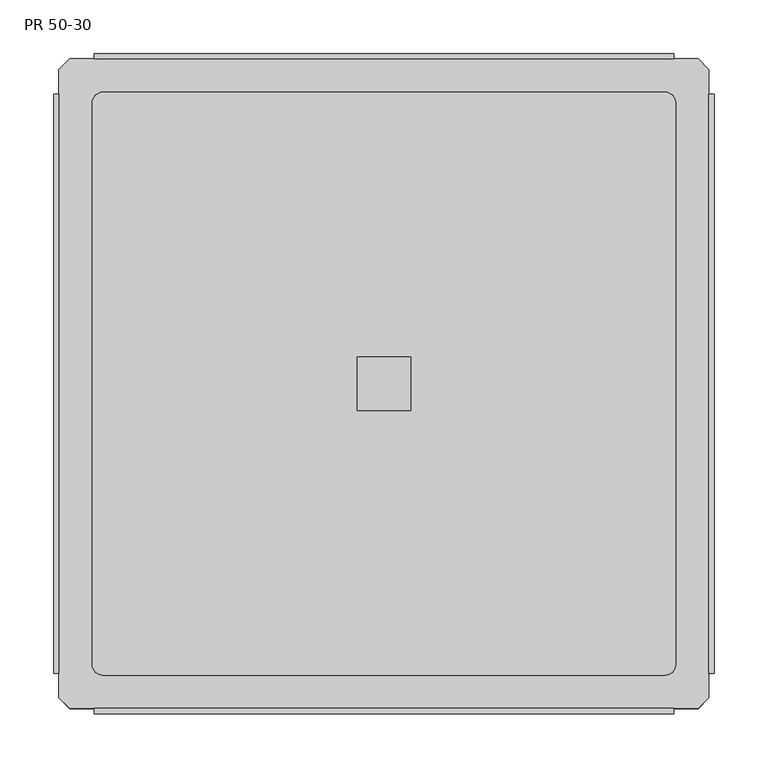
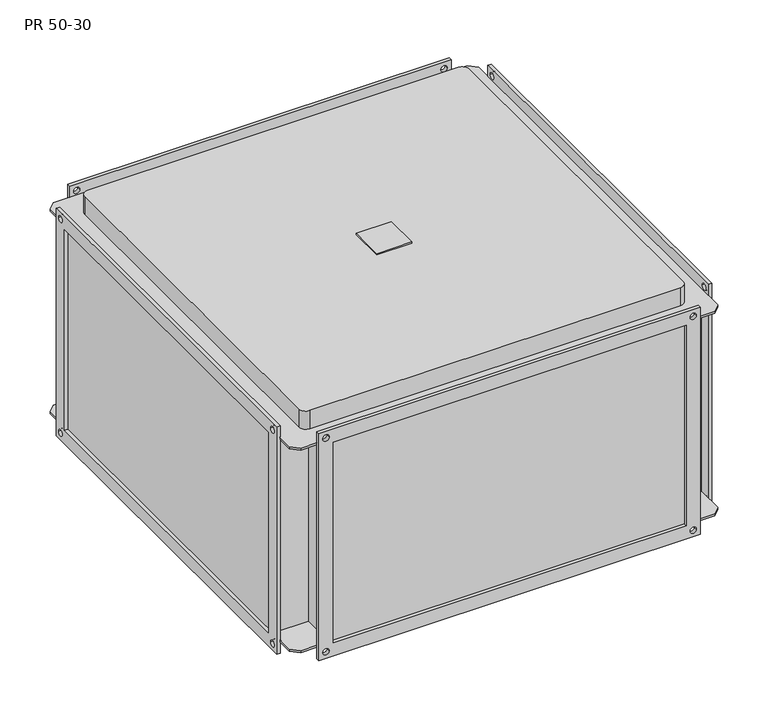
"""IFC4 building model written with IfcOpenShell, lengths in millimetres: proxy geometry, KORF_Рекуператор_Пластинчатый_PR : PR 50-30."""

from ifc_helpers import new_model, si_unit, point, frame, frame_2d, origin, place, context, project, spatial, polyline, circle_curve, trimmed, segment, composite_curve, outline, extrude, source, transform, mapped, element, save
from ifc_brep_helpers import plane_surface, cylinder_surface, revolved_surface, advanced_brep


def pr_50_30_9a198d9c(model_context):
    return source(origin(), model_context, "Body", "SolidModel", [
        extrude(outline(polyline([(283.0, -25.0), (283.0, 25.0), (333.0, 25.0), (333.0, -25.0), (283.0, -25.0)])), frame((0.0, 0.0, 180.0), z_axis=(0.0, 0.0, 1.0), x_axis=(1.0, 0.0, 0.0)), (0.0, 0.0, 1.0), 2.0),
        advanced_brep(
        [(558.0, -303.0, -150.0), (558.0, -303.0, 150.0), (58.0, -303.0, 150.0), (58.0, -303.0, -150.0), (558.0, 303.0, 150.0), (558.0, 303.0, -150.0), (58.0, 303.0, -150.0), (58.0, 303.0, 150.0), (15.0, 303.0, 153.0), (5.0, 293.0, 153.0), (5.0, -293.0, 153.0), (15.0, -303.0, 153.0), (38.0, -303.0, 153.0), (578.0, -303.0, 153.0), (601.0, -303.0, 153.0), (611.0, -293.0, 153.0), (611.0, 293.0, 153.0), (601.0, 303.0, 153.0), (578.0, 303.0, 153.0), (38.0, 303.0, 153.0), (46.0, 272.0, 153.0), (570.0, 272.0, 153.0), (580.0, 262.0, 153.0), (580.0, -262.0, 153.0), (570.0, -272.0, 153.0), (46.0, -272.0, 153.0), (36.0, -262.0, 153.0), (36.0, 262.0, 153.0), (55.0, -303.0, 150.0), (55.0, -253.0, 150.0), (55.0, -253.0, -150.0), (55.0, -303.0, -150.0), (55.0, 253.0, 150.0), (55.0, 303.0, 150.0), (55.0, 303.0, -150.0), (55.0, 253.0, -150.0), (5.0, 293.0, -153.0), (15.0, 303.0, -153.0), (38.0, 303.0, -153.0), (578.0, 303.0, -153.0), (601.0, 303.0, -153.0), (611.0, 293.0, -153.0), (611.0, -293.0, -153.0), (601.0, -303.0, -153.0), (578.0, -303.0, -153.0), (38.0, -303.0, -153.0), (15.0, -303.0, -153.0), (5.0, -293.0, -153.0), (561.0, -253.0, 150.0), (561.0, -303.0, 150.0), (561.0, -303.0, -150.0), (561.0, -253.0, -150.0), (561.0, 303.0, 150.0), (561.0, 253.0, 150.0), (561.0, 253.0, -150.0), (561.0, 303.0, -150.0), (611.0, 253.0, 150.0), (611.0, 293.0, 150.0), (611.0, -293.0, 150.0), (611.0, -253.0, 150.0), (611.0, -253.0, -150.0), (611.0, -293.0, -150.0), (611.0, 293.0, -150.0), (611.0, 253.0, -150.0), (5.0, 293.0, 150.0), (5.0, 253.0, 150.0), (5.0, 253.0, -150.0), (5.0, 293.0, -150.0), (5.0, -293.0, -150.0), (5.0, -253.0, -150.0), (5.0, -253.0, 150.0), (5.0, -293.0, 150.0), (578.0, 308.0, 170.0), (578.0, 308.0, -170.0), (38.0, 308.0, -170.0), (38.0, 308.0, 170.0), (558.0, 308.0, 150.0), (58.0, 308.0, 150.0), (58.0, 308.0, -150.0), (558.0, 308.0, -150.0), (43.5, 308.0, 160.0), (52.5, 308.0, 160.0), (563.5, 308.0, 160.0), (572.5, 308.0, 160.0), (563.5, 308.0, -160.0), (572.5, 308.0, -160.0), (43.5, 308.0, -160.0), (52.5, 308.0, -160.0), (578.0, 303.0, 170.0), (38.0, 303.0, 170.0), (43.5, 303.0, 160.0), (52.5, 303.0, 160.0), (563.5, 303.0, 160.0), (572.5, 303.0, 160.0), (38.0, 303.0, -170.0), (578.0, 303.0, -170.0), (563.5, 303.0, -160.0), (572.5, 303.0, -160.0), (43.5, 303.0, -160.0), (52.5, 303.0, -160.0), (38.0, 303.0, 150.0), (38.0, 303.0, -150.0), (578.0, 303.0, 150.0), (578.0, 303.0, -150.0), (578.0, -308.0, 170.0), (38.0, -308.0, 170.0), (38.0, -308.0, -170.0), (578.0, -308.0, -170.0), (558.0, -308.0, 150.0), (558.0, -308.0, -150.0), (58.0, -308.0, -150.0), (58.0, -308.0, 150.0), (563.5, -308.0, 160.0), (572.5, -308.0, 160.0), (563.5, -308.0, -160.0), (572.5, -308.0, -160.0), (43.5, -308.0, 160.0), (52.5, -308.0, 160.0), (43.5, -308.0, -160.0), (52.5, -308.0, -160.0), (578.0, -303.0, -170.0), (38.0, -303.0, -170.0), (563.5, -303.0, -160.0), (572.5, -303.0, -160.0), (43.5, -303.0, -160.0), (52.5, -303.0, -160.0), (38.0, -303.0, 170.0), (578.0, -303.0, 170.0), (563.5, -303.0, 160.0), (572.5, -303.0, 160.0), (43.5, -303.0, 160.0), (52.5, -303.0, 160.0), (38.0, -303.0, 150.0), (38.0, -303.0, -150.0), (578.0, -303.0, 150.0), (578.0, -303.0, -150.0), (601.0, -303.0, 150.0), (15.0, 303.0, 150.0), (601.0, 303.0, 150.0), (15.0, -303.0, 150.0), (601.0, 303.0, -150.0), (15.0, -303.0, -150.0), (15.0, 303.0, -150.0), (601.0, -303.0, -150.0), (570.0, 272.0, 180.0), (46.0, 272.0, 180.0), (36.0, 262.0, 180.0), (36.0, -262.0, 180.0), (46.0, -272.0, 180.0), (570.0, -272.0, 180.0), (580.0, -262.0, 180.0), (580.0, 262.0, 180.0)],
        [
            (0, 1),
            (1, 2),
            (2, 3),
            (3, 0),
            (4, 5),
            (5, 6),
            (6, 7),
            (7, 4),
            (8, 9),
            (9, 10),
            (10, 11),
            (11, 12),
            (12, 13),
            (13, 14),
            (14, 15),
            (15, 16),
            (16, 17),
            (17, 18),
            (18, 19),
            (19, 8),
            (20, 21),
            (21, 22, circle_curve(frame((570.0, 262.0, 153.0), z_axis=(0.0, 0.0, -1.0), x_axis=(1.0, 0.0, 0.0)), 10.0)),
            (22, 23),
            (23, 24, circle_curve(frame((570.0, -262.0, 153.0), z_axis=(0.0, 0.0, -1.0), x_axis=(1.0, 0.0, 0.0)), 10.0)),
            (24, 25),
            (25, 26, circle_curve(frame((46.0, -262.0, 153.0), z_axis=(0.0, 0.0, -1.0), x_axis=(1.0, 0.0, 0.0)), 10.0)),
            (26, 27),
            (27, 20, circle_curve(frame((46.0, 262.0, 153.0), z_axis=(0.0, 0.0, -1.0), x_axis=(1.0, 0.0, 0.0)), 10.0)),
            (28, 29),
            (29, 30),
            (30, 31),
            (31, 28),
            (32, 33),
            (33, 34),
            (34, 35),
            (35, 32),
            (36, 37),
            (37, 38),
            (38, 39),
            (39, 40),
            (40, 41),
            (41, 42),
            (42, 43),
            (43, 44),
            (44, 45),
            (45, 46),
            (46, 47),
            (47, 36),
            (48, 49),
            (49, 50),
            (50, 51),
            (51, 48),
            (52, 53),
            (53, 54),
            (54, 55),
            (55, 52),
            (56, 57),
            (57, 16),
            (15, 58),
            (58, 59),
            (59, 60),
            (60, 61),
            (61, 42),
            (41, 62),
            (62, 63),
            (63, 56),
            (64, 65),
            (65, 66),
            (66, 67),
            (67, 36),
            (47, 68),
            (68, 69),
            (69, 70),
            (70, 71),
            (71, 10),
            (9, 64),
            (29, 70),
            (69, 30),
            (59, 48),
            (51, 60),
            (65, 32),
            (35, 66),
            (53, 56),
            (63, 54),
            (72, 73),
            (73, 74),
            (74, 75),
            (75, 72),
            (76, 77),
            (77, 78),
            (78, 79),
            (79, 76),
            (80, 81, circle_curve(frame((48.0, 308.0, 160.0), z_axis=(0.0, -1.0, 0.0), x_axis=(1.0, 0.0, 0.0)), 4.5)),
            (81, 80, circle_curve(frame((48.0, 308.0, 160.0), z_axis=(0.0, -1.0, 0.0), x_axis=(1.0, 0.0, 0.0)), 4.5)),
            (82, 83, circle_curve(frame((568.0, 308.0, 160.0), z_axis=(0.0, -1.0, 0.0), x_axis=(1.0, 0.0, 0.0)), 4.5)),
            (83, 82, circle_curve(frame((568.0, 308.0, 160.0), z_axis=(0.0, -1.0, 0.0), x_axis=(1.0, 0.0, 0.0)), 4.5)),
            (84, 85, circle_curve(frame((568.0, 308.0, -160.0), z_axis=(0.0, -1.0, 0.0), x_axis=(1.0, 0.0, 0.0)), 4.5)),
            (85, 84, circle_curve(frame((568.0, 308.0, -160.0), z_axis=(0.0, -1.0, 0.0), x_axis=(1.0, 0.0, 0.0)), 4.5)),
            (86, 87, circle_curve(frame((48.0, 308.0, -160.0), z_axis=(0.0, -1.0, 0.0), x_axis=(1.0, 0.0, 0.0)), 4.5)),
            (87, 86, circle_curve(frame((48.0, 308.0, -160.0), z_axis=(0.0, -1.0, 0.0), x_axis=(1.0, 0.0, 0.0)), 4.5)),
            (88, 89),
            (89, 19),
            (18, 88),
            (90, 91, circle_curve(frame((48.0, 303.0, 160.0), z_axis=(0.0, 1.0, 0.0), x_axis=(1.0, 0.0, 0.0)), 4.5)),
            (91, 90, circle_curve(frame((48.0, 303.0, 160.0), z_axis=(0.0, 1.0, 0.0), x_axis=(1.0, 0.0, 0.0)), 4.5)),
            (92, 93, circle_curve(frame((568.0, 303.0, 160.0), z_axis=(0.0, 1.0, 0.0), x_axis=(1.0, 0.0, 0.0)), 4.5)),
            (93, 92, circle_curve(frame((568.0, 303.0, 160.0), z_axis=(0.0, 1.0, 0.0), x_axis=(1.0, 0.0, 0.0)), 4.5)),
            (94, 95),
            (95, 39),
            (38, 94),
            (96, 97, circle_curve(frame((568.0, 303.0, -160.0), z_axis=(0.0, 1.0, 0.0), x_axis=(1.0, 0.0, 0.0)), 4.5)),
            (97, 96, circle_curve(frame((568.0, 303.0, -160.0), z_axis=(0.0, 1.0, 0.0), x_axis=(1.0, 0.0, 0.0)), 4.5)),
            (98, 99, circle_curve(frame((48.0, 303.0, -160.0), z_axis=(0.0, 1.0, 0.0), x_axis=(1.0, 0.0, 0.0)), 4.5)),
            (99, 98, circle_curve(frame((48.0, 303.0, -160.0), z_axis=(0.0, 1.0, 0.0), x_axis=(1.0, 0.0, 0.0)), 4.5)),
            (33, 100),
            (100, 101),
            (101, 34),
            (102, 52),
            (55, 103),
            (103, 102),
            (75, 89),
            (88, 72),
            (74, 94),
            (38, 101),
            (100, 19),
            (73, 95),
            (18, 102),
            (103, 39),
            (79, 5),
            (4, 76),
            (78, 6),
            (77, 7),
            (104, 105),
            (105, 106),
            (106, 107),
            (107, 104),
            (108, 109),
            (109, 110),
            (110, 111),
            (111, 108),
            (112, 113, circle_curve(frame((568.0, -308.0, 160.0), z_axis=(0.0, 1.0, 0.0), x_axis=(1.0, 0.0, 0.0)), 4.5)),
            (113, 112, circle_curve(frame((568.0, -308.0, 160.0), z_axis=(0.0, 1.0, 0.0), x_axis=(1.0, 0.0, 0.0)), 4.5)),
            (114, 115, circle_curve(frame((568.0, -308.0, -160.0), z_axis=(0.0, 1.0, 0.0), x_axis=(1.0, 0.0, 0.0)), 4.5)),
            (115, 114, circle_curve(frame((568.0, -308.0, -160.0), z_axis=(0.0, 1.0, 0.0), x_axis=(1.0, 0.0, 0.0)), 4.5)),
            (116, 117, circle_curve(frame((48.0, -308.0, 160.0), z_axis=(0.0, 1.0, 0.0), x_axis=(1.0, 0.0, 0.0)), 4.5)),
            (117, 116, circle_curve(frame((48.0, -308.0, 160.0), z_axis=(0.0, 1.0, 0.0), x_axis=(1.0, 0.0, 0.0)), 4.5)),
            (118, 119, circle_curve(frame((48.0, -308.0, -160.0), z_axis=(0.0, 1.0, 0.0), x_axis=(1.0, 0.0, 0.0)), 4.5)),
            (119, 118, circle_curve(frame((48.0, -308.0, -160.0), z_axis=(0.0, 1.0, 0.0), x_axis=(1.0, 0.0, 0.0)), 4.5)),
            (120, 121),
            (121, 45),
            (44, 120),
            (122, 123, circle_curve(frame((568.0, -303.0, -160.0), z_axis=(0.0, -1.0, 0.0), x_axis=(1.0, 0.0, 0.0)), 4.5)),
            (123, 122, circle_curve(frame((568.0, -303.0, -160.0), z_axis=(0.0, -1.0, 0.0), x_axis=(1.0, 0.0, 0.0)), 4.5)),
            (124, 125, circle_curve(frame((48.0, -303.0, -160.0), z_axis=(0.0, -1.0, 0.0), x_axis=(1.0, 0.0, 0.0)), 4.5)),
            (125, 124, circle_curve(frame((48.0, -303.0, -160.0), z_axis=(0.0, -1.0, 0.0), x_axis=(1.0, 0.0, 0.0)), 4.5)),
            (126, 127),
            (127, 13),
            (12, 126),
            (128, 129, circle_curve(frame((568.0, -303.0, 160.0), z_axis=(0.0, -1.0, 0.0), x_axis=(1.0, 0.0, 0.0)), 4.5)),
            (129, 128, circle_curve(frame((568.0, -303.0, 160.0), z_axis=(0.0, -1.0, 0.0), x_axis=(1.0, 0.0, 0.0)), 4.5)),
            (130, 131, circle_curve(frame((48.0, -303.0, 160.0), z_axis=(0.0, -1.0, 0.0), x_axis=(1.0, 0.0, 0.0)), 4.5)),
            (131, 130, circle_curve(frame((48.0, -303.0, 160.0), z_axis=(0.0, -1.0, 0.0), x_axis=(1.0, 0.0, 0.0)), 4.5)),
            (132, 28),
            (31, 133),
            (133, 132),
            (49, 134),
            (134, 135),
            (135, 50),
            (104, 127),
            (126, 105),
            (12, 132),
            (133, 45),
            (121, 106),
            (120, 107),
            (44, 135),
            (134, 13),
            (108, 1),
            (0, 109),
            (3, 110),
            (2, 111),
            (81, 91),
            (90, 80),
            (83, 93),
            (92, 82),
            (85, 97),
            (96, 84),
            (87, 99),
            (98, 86),
            (112, 128),
            (129, 113),
            (114, 122),
            (123, 115),
            (116, 130),
            (131, 117),
            (118, 124),
            (125, 119),
            (58, 136),
            (136, 134),
            (64, 137),
            (137, 100),
            (138, 57),
            (102, 138),
            (139, 71),
            (132, 139),
            (137, 8),
            (138, 17),
            (139, 11),
            (136, 14),
            (62, 140),
            (140, 103),
            (68, 141),
            (141, 133),
            (142, 67),
            (101, 142),
            (143, 61),
            (135, 143),
            (37, 142),
            (40, 140),
            (46, 141),
            (43, 143),
            (144, 145),
            (145, 146, circle_curve(frame((46.0, 262.0, 180.0), z_axis=(0.0, 0.0, 1.0), x_axis=(1.0, 0.0, 0.0)), 10.0)),
            (146, 147),
            (147, 148, circle_curve(frame((46.0, -262.0, 180.0), z_axis=(0.0, 0.0, 1.0), x_axis=(1.0, 0.0, 0.0)), 10.0)),
            (148, 149),
            (149, 150, circle_curve(frame((570.0, -262.0, 180.0), z_axis=(0.0, 0.0, 1.0), x_axis=(1.0, 0.0, 0.0)), 10.0)),
            (150, 151),
            (151, 144, circle_curve(frame((570.0, 262.0, 180.0), z_axis=(0.0, 0.0, 1.0), x_axis=(1.0, 0.0, 0.0)), 10.0)),
            (144, 21),
            (20, 145),
            (27, 146),
            (26, 147),
            (25, 148),
            (24, 149),
            (23, 150),
            (22, 151),
        ],
        [
            plane_surface(frame((55.0, -303.0, 153.0), z_axis=(0.0, -1.0, 0.0), x_axis=(-1.0, 0.0, 0.0))),
            plane_surface(frame((55.0, 303.0, 153.0), z_axis=(0.0, 1.0, 0.0), x_axis=(1.0, 0.0, 0.0))),
            plane_surface(frame((561.0, -303.0, 153.0), z_axis=(0.0, 0.0, 1.0), x_axis=(0.0, 1.0, 0.0))),
            plane_surface(frame((55.0, -303.0, 153.0), z_axis=(-1.0, 0.0, 0.0), x_axis=(0.0, 1.0, 0.0))),
            plane_surface(frame((55.0, -303.0, -153.0), z_axis=(0.0, 0.0, -1.0), x_axis=(0.0, 1.0, 0.0))),
            plane_surface(frame((561.0, -303.0, -153.0), z_axis=(1.0, 0.0, 0.0), x_axis=(0.0, 1.0, 0.0))),
            plane_surface(frame((611.0, -253.0, 153.0), z_axis=(1.0, 0.0, 0.0), x_axis=(0.0, 0.0, -1.0))),
            plane_surface(frame((5.0, -253.0, 153.0), z_axis=(-1.0, 0.0, 0.0), x_axis=(0.0, 0.0, 1.0))),
            plane_surface(frame((611.0, -253.0, 153.0), z_axis=(0.0, -1.0, 0.0), x_axis=(-1.0, 0.0, 0.0))),
            plane_surface(frame((611.0, 253.0, -153.0), z_axis=(0.0, 1.0, 0.0), x_axis=(-1.0, 0.0, 0.0))),
            plane_surface(frame((38.0, 308.0, 170.0), z_axis=(0.0, 1.0, 0.0), x_axis=(1.0, 0.0, 0.0))),
            plane_surface(frame((38.0, 303.0, 170.0), z_axis=(0.0, -1.0, 0.0), x_axis=(-1.0, 0.0, 0.0))),
            plane_surface(frame((578.0, 303.0, 170.0), z_axis=(0.0, 0.0, 1.0), x_axis=(0.0, 1.0, 0.0))),
            plane_surface(frame((38.0, 303.0, 170.0), z_axis=(-1.0, 0.0, 0.0), x_axis=(0.0, 1.0, 0.0))),
            plane_surface(frame((38.0, 303.0, -170.0), z_axis=(0.0, 0.0, -1.0), x_axis=(0.0, 1.0, 0.0))),
            plane_surface(frame((578.0, 303.0, -170.0), z_axis=(1.0, 0.0, 0.0), x_axis=(0.0, 1.0, 0.0))),
            plane_surface(frame((558.0, 303.0, 150.0), z_axis=(-1.0, 0.0, 0.0), x_axis=(0.0, 1.0, 0.0))),
            plane_surface(frame((558.0, 303.0, -150.0), z_axis=(0.0, 0.0, 1.0), x_axis=(0.0, 1.0, 0.0))),
            plane_surface(frame((58.0, 303.0, -150.0), z_axis=(1.0, 0.0, 0.0), x_axis=(0.0, 1.0, 0.0))),
            plane_surface(frame((58.0, 303.0, 150.0), z_axis=(0.0, 0.0, -1.0), x_axis=(0.0, 1.0, 0.0))),
            plane_surface(frame((38.0, -308.0, 170.0), z_axis=(0.0, -1.0, 0.0), x_axis=(-1.0, 0.0, 0.0))),
            plane_surface(frame((38.0, -303.0, 170.0), z_axis=(0.0, 1.0, 0.0), x_axis=(1.0, 0.0, 0.0))),
            plane_surface(frame((578.0, -308.0, 170.0), z_axis=(0.0, 0.0, 1.0), x_axis=(0.0, 1.0, 0.0))),
            plane_surface(frame((38.0, -308.0, 170.0), z_axis=(-1.0, 0.0, 0.0), x_axis=(0.0, 1.0, 0.0))),
            plane_surface(frame((38.0, -308.0, -170.0), z_axis=(0.0, 0.0, -1.0), x_axis=(0.0, 1.0, 0.0))),
            plane_surface(frame((578.0, -308.0, -170.0), z_axis=(1.0, 0.0, 0.0), x_axis=(0.0, 1.0, 0.0))),
            plane_surface(frame((558.0, -308.0, 150.0), z_axis=(-1.0, 0.0, 0.0), x_axis=(0.0, 1.0, 0.0))),
            plane_surface(frame((558.0, -308.0, -150.0), z_axis=(0.0, 0.0, 1.0), x_axis=(0.0, 1.0, 0.0))),
            plane_surface(frame((58.0, -308.0, -150.0), z_axis=(1.0, 0.0, 0.0), x_axis=(0.0, 1.0, 0.0))),
            plane_surface(frame((58.0, -308.0, 150.0), z_axis=(0.0, 0.0, -1.0), x_axis=(0.0, 1.0, 0.0))),
            revolved_surface(polyline([(52.5, 308.0, 160.0), (52.5, 303.0, 160.0)]), (48.0, 0.0, 160.0), (0.0, 1.0, 0.0)),
            revolved_surface(polyline([(572.5, 308.0, 160.0), (572.5, 303.0, 160.0)]), (568.0, 0.0, 160.0), (0.0, 1.0, 0.0)),
            revolved_surface(polyline([(572.5, 308.0, -160.0), (572.5, 303.0, -160.0)]), (568.0, 0.0, -160.0), (0.0, 1.0, 0.0)),
            revolved_surface(polyline([(52.5, 308.0, -160.0), (52.5, 303.0, -160.0)]), (48.0, 0.0, -160.0), (0.0, 1.0, 0.0)),
            revolved_surface(polyline([(572.5, -303.0, 160.0), (572.5, -308.0, 160.0)]), (568.0, 0.0, 160.0), (0.0, 1.0, 0.0)),
            revolved_surface(polyline([(572.5, -303.0, -160.0), (572.5, -308.0, -160.0)]), (568.0, 0.0, -160.0), (0.0, 1.0, 0.0)),
            revolved_surface(polyline([(52.5, -303.0, 160.0), (52.5, -308.0, 160.0)]), (48.0, 0.0, 160.0), (0.0, 1.0, 0.0)),
            revolved_surface(polyline([(52.5, -303.0, -160.0), (52.5, -308.0, -160.0)]), (48.0, 0.0, -160.0), (0.0, 1.0, 0.0)),
            plane_surface(frame((55.0, 253.0, 150.0), z_axis=(0.0, 0.0, -1.0), x_axis=(0.0, -1.0, 0.0))),
            plane_surface(frame((55.0, 303.0, 153.0), z_axis=(0.0, 1.0, 0.0), x_axis=(0.0, 0.0, -1.0))),
            plane_surface(frame((15.0, 303.0, 153.0), z_axis=(-0.707106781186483, 0.7071067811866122, 0.0), x_axis=(0.0, 0.0, -1.0))),
            plane_surface(frame((611.0, 293.0, 153.0), z_axis=(0.7071067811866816, 0.7071067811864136, 0.0), x_axis=(0.0, 0.0, -1.0))),
            plane_surface(frame((601.0, 303.0, 153.0), z_axis=(0.0, 1.0, 0.0), x_axis=(0.0, 0.0, -1.0))),
            plane_surface(frame((5.0, -293.0, 153.0), z_axis=(-0.7071067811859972, -0.7071067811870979, 0.0), x_axis=(0.0, 0.0, -1.0))),
            plane_surface(frame((15.0, -303.0, 153.0), z_axis=(0.0, -1.0, 0.0), x_axis=(0.0, 0.0, -1.0))),
            plane_surface(frame((561.0, -303.0, 153.0), z_axis=(0.0, -1.0, 0.0), x_axis=(0.0, 0.0, -1.0))),
            plane_surface(frame((601.0, -303.0, 153.0), z_axis=(0.7071067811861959, -0.7071067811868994, 0.0), x_axis=(0.0, 0.0, -1.0))),
            plane_surface(frame((55.0, 253.0, -150.0), z_axis=(0.0, 0.0, 1.0), x_axis=(0.0, 1.0, 0.0))),
            plane_surface(frame((55.0, 303.0, -150.0), z_axis=(0.0, 1.0, 0.0), x_axis=(0.0, 0.0, -1.0))),
            plane_surface(frame((15.0, 303.0, -150.0), z_axis=(-0.7071067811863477, 0.7071067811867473, 0.0), x_axis=(0.0, 0.0, -1.0))),
            plane_surface(frame((611.0, 293.0, -150.0), z_axis=(0.7071067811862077, 0.7071067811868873, 0.0), x_axis=(0.0, 0.0, -1.0))),
            plane_surface(frame((601.0, 303.0, -150.0), z_axis=(0.0, 1.0, 0.0), x_axis=(0.0, 0.0, -1.0))),
            plane_surface(frame((5.0, -293.0, -150.0), z_axis=(-0.7071067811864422, -0.7071067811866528, 0.0), x_axis=(0.0, 0.0, -1.0))),
            plane_surface(frame((15.0, -303.0, -150.0), z_axis=(0.0, -1.0, 0.0), x_axis=(0.0, 0.0, -1.0))),
            plane_surface(frame((561.0, -303.0, -150.0), z_axis=(0.0, -1.0, 0.0), x_axis=(0.0, 0.0, -1.0))),
            plane_surface(frame((601.0, -303.0, -150.0), z_axis=(0.7071067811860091, -0.7071067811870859, 0.0), x_axis=(0.0, 0.0, -1.0))),
            plane_surface(frame((46.0, 272.0, 180.0), z_axis=(0.0, 0.0, 1.0), x_axis=(-1.0, 0.0, 0.0))),
            plane_surface(frame((570.0, 272.0, 180.0), z_axis=(0.0, 1.0, 0.0), x_axis=(0.0, 0.0, -1.0))),
            cylinder_surface(frame((46.0, 262.0, 153.0), z_axis=(0.0, 0.0, 1.0), x_axis=(1.0, 0.0, 0.0)), 10.0),
            plane_surface(frame((36.0, 262.0, 180.0), z_axis=(-1.0, 0.0, 0.0), x_axis=(0.0, 0.0, -1.0))),
            cylinder_surface(frame((46.0, -262.0, 153.0), z_axis=(0.0, 0.0, 1.0), x_axis=(1.0, 0.0, 0.0)), 10.0),
            plane_surface(frame((46.0, -272.0, 180.0), z_axis=(0.0, -1.0, 0.0), x_axis=(0.0, 0.0, -1.0))),
            cylinder_surface(frame((570.0, -262.0, 153.0), z_axis=(0.0, 0.0, 1.0), x_axis=(1.0, 0.0, 0.0)), 10.0),
            plane_surface(frame((580.0, -262.0, 180.0), z_axis=(1.0, 0.0, 0.0), x_axis=(0.0, 0.0, -1.0))),
            cylinder_surface(frame((570.0, 262.0, 153.0), z_axis=(0.0, 0.0, 1.0), x_axis=(1.0, 0.0, 0.0)), 10.0),
        ],
        [
            (0, [[1, 2, 3, 4]]),
            (1, [[5, 6, 7, 8]]),
            (2, [[9, 10, 11, 12, 13, 14, 15, 16, 17, 18, 19, 20], [21, 22, 23, 24, 25, 26, 27, 28]]),
            (3, [[29, 30, 31, 32]]),
            (3, [[33, 34, 35, 36]]),
            (4, [[37, 38, 39, 40, 41, 42, 43, 44, 45, 46, 47, 48]]),
            (5, [[49, 50, 51, 52]]),
            (5, [[53, 54, 55, 56]]),
            (6, [[57, 58, -16, 59, 60, 61, 62, 63, -42, 64, 65, 66]]),
            (7, [[67, 68, 69, 70, -48, 71, 72, 73, 74, 75, -10, 76]]),
            (8, [[77, -73, 78, -30]]),
            (8, [[79, -52, 80, -61]]),
            (9, [[81, -36, 82, -68]]),
            (9, [[83, -66, 84, -54]]),
            (10, [[85, 86, 87, 88], [89, 90, 91, 92], [93, 94], [95, 96], [97, 98], [99, 100]]),
            (11, [[101, 102, -19, 103], [104, 105], [106, 107]]),
            (11, [[108, 109, -39, 110], [111, 112], [113, 114]]),
            (11, [[115, 116, 117, -34]]),
            (11, [[118, -56, 119, 120]]),
            (12, [[-88, 121, -101, 122]]),
            (13, [[-87, 123, -110, 124, -116, 125, -102, -121]]),
            (14, [[-86, 126, -108, -123]]),
            (15, [[-85, -122, -103, 127, -120, 128, -109, -126]]),
            (16, [[-92, 129, -5, 130]]),
            (17, [[-91, 131, -6, -129]]),
            (18, [[-90, 132, -7, -131]]),
            (19, [[-89, -130, -8, -132]]),
            (20, [[133, 134, 135, 136], [137, 138, 139, 140], [141, 142], [143, 144], [145, 146], [147, 148]]),
            (21, [[149, 150, -45, 151], [152, 153], [154, 155]]),
            (21, [[156, 157, -13, 158], [159, 160], [161, 162]]),
            (21, [[163, -32, 164, 165]]),
            (21, [[166, 167, 168, -50]]),
            (22, [[-133, 169, -156, 170]]),
            (23, [[-134, -170, -158, 171, -165, 172, -150, 173]]),
            (24, [[-135, -173, -149, 174]]),
            (25, [[-136, -174, -151, 175, -167, 176, -157, -169]]),
            (26, [[-137, 177, -1, 178]]),
            (27, [[-138, -178, -4, 179]]),
            (28, [[-139, -179, -3, 180]]),
            (29, [[-140, -180, -2, -177]]),
            (30, [[-94, 181, -104, 182]]),
            (30, [[-93, -182, -105, -181]]),
            (31, [[-96, 183, -106, 184]]),
            (31, [[-95, -184, -107, -183]]),
            (32, [[-98, 185, -111, 186]]),
            (32, [[-97, -186, -112, -185]]),
            (33, [[-100, 187, -113, 188]]),
            (33, [[-99, -188, -114, -187]]),
            (34, [[-141, 189, -160, 190]]),
            (34, [[-142, -190, -159, -189]]),
            (35, [[-143, 191, -153, 192]]),
            (35, [[-144, -192, -152, -191]]),
            (36, [[-145, 193, -162, 194]]),
            (36, [[-146, -194, -161, -193]]),
            (37, [[-147, 195, -155, 196]]),
            (37, [[-148, -196, -154, -195]]),
            (38, [[-60, 197, 198, -166, -49, -79]]),
            (38, [[-67, 199, 200, -115, -33, -81]]),
            (38, [[201, -57, -83, -53, -118, 202]]),
            (38, [[203, -74, -77, -29, -163, 204]]),
            (39, [[205, -20, -125, -200]]),
            (40, [[-199, -76, -9, -205]]),
            (41, [[-201, 206, -17, -58]]),
            (42, [[-206, -202, -127, -18]]),
            (43, [[-203, 207, -11, -75]]),
            (44, [[-207, -204, -171, -12]]),
            (45, [[208, -14, -176, -198]]),
            (46, [[-197, -59, -15, -208]]),
            (47, [[-65, 209, 210, -119, -55, -84]]),
            (47, [[-72, 211, 212, -164, -31, -78]]),
            (47, [[213, -69, -82, -35, -117, 214]]),
            (47, [[215, -62, -80, -51, -168, 216]]),
            (48, [[217, -214, -124, -38]]),
            (49, [[-213, -217, -37, -70]]),
            (50, [[-209, -64, -41, 218]]),
            (51, [[-218, -40, -128, -210]]),
            (52, [[-211, -71, -47, 219]]),
            (53, [[-219, -46, -172, -212]]),
            (54, [[220, -216, -175, -44]]),
            (55, [[-215, -220, -43, -63]]),
            (56, [[221, 222, 223, 224, 225, 226, 227, 228]]),
            (57, [[-221, 229, -21, 230]]),
            (58, [[-222, -230, -28, 231]]),
            (59, [[-223, -231, -27, 232]]),
            (60, [[-224, -232, -26, 233]]),
            (61, [[-225, -233, -25, 234]]),
            (62, [[-226, -234, -24, 235]]),
            (63, [[-227, -235, -23, 236]]),
            (64, [[-228, -236, -22, -229]]),
        ],
    ),
        extrude(outline(polyline([(-270.0, 170.0), (270.0, 170.0), (270.0, -170.0), (-270.0, -170.0), (-270.0, 170.0)]), holes=[polyline([(-250.0, 150.0), (-250.0, -150.0), (250.0, -150.0), (250.0, 150.0), (-250.0, 150.0)]), composite_curve([segment(trimmed(circle_curve(frame_2d((260.0, 160.0)), 4.5), [point((255.5, 160.0))], [point((264.5, 160.0))], True, "CARTESIAN"), True, "CONTINUOUS"), segment(trimmed(circle_curve(frame_2d((260.0, 160.0)), 4.5), [point((264.5, 160.0))], [point((255.5, 160.0))], True, "CARTESIAN"), True, "CONTINUOUS")], self_intersect=False), composite_curve([segment(trimmed(circle_curve(frame_2d((-260.0, 160.0)), 4.5), [point((-264.5, 160.0))], [point((-255.5, 160.0))], True, "CARTESIAN"), True, "CONTINUOUS"), segment(trimmed(circle_curve(frame_2d((-260.0, 160.0)), 4.5), [point((-255.5, 160.0))], [point((-264.5, 160.0))], True, "CARTESIAN"), True, "CONTINUOUS")], self_intersect=False), composite_curve([segment(trimmed(circle_curve(frame_2d((-260.0, -160.0)), 4.5), [point((-264.5, -160.0))], [point((-255.5, -160.0))], True, "CARTESIAN"), True, "CONTINUOUS"), segment(trimmed(circle_curve(frame_2d((-260.0, -160.0)), 4.5), [point((-255.5, -160.0))], [point((-264.5, -160.0))], True, "CARTESIAN"), True, "CONTINUOUS")], self_intersect=False), composite_curve([segment(trimmed(circle_curve(frame_2d((260.0, -160.0)), 4.5), [point((255.5, -160.0))], [point((264.5, -160.0))], True, "CARTESIAN"), True, "CONTINUOUS"), segment(trimmed(circle_curve(frame_2d((260.0, -160.0)), 4.5), [point((264.5, -160.0))], [point((255.5, -160.0))], True, "CARTESIAN"), True, "CONTINUOUS")], self_intersect=False)]), frame((611.0, 0.0, 0.0), z_axis=(1.0, 0.0, 0.0), x_axis=(0.0, 1.0, 0.0)), (0.0, 0.0, 1.0), 5.0),
        advanced_brep(
        [(0.0, -270.0, 170.0), (0.0, 270.0, 170.0), (0.0, 270.0, -170.0), (0.0, -270.0, -170.0), (0.0, -250.0, 150.0), (0.0, -250.0, -150.0), (0.0, 250.0, -150.0), (0.0, 250.0, 150.0), (0.0, 255.5, 160.0), (0.0, 264.5, 160.0), (0.0, -264.5, 160.0), (0.0, -255.5, 160.0), (0.0, -264.5, -160.0), (0.0, -255.5, -160.0), (0.0, 255.5, -160.0), (0.0, 264.5, -160.0), (5.0, -270.0, 170.0), (5.0, -270.0, -170.0), (5.0, 270.0, -170.0), (5.0, 270.0, 170.0), (5.0, 264.5, 160.0), (5.0, 255.5, 160.0), (5.0, -255.5, 160.0), (5.0, -264.5, 160.0), (5.0, -255.5, -160.0), (5.0, -264.5, -160.0), (5.0, 264.5, -160.0), (5.0, 255.5, -160.0), (5.0, -250.0, -150.0), (5.0, -250.0, 150.0), (5.0, 250.0, 150.0), (5.0, 250.0, -150.0), (5.0, 250.0, 150.0), (5.0, -250.0, 150.0), (5.0, 250.0, -150.0), (5.0, -250.0, -150.0), (611.0, -250.0, 150.0), (611.0, -250.0, -150.0), (611.0, 250.0, 150.0), (611.0, 250.0, -150.0)],
        [
            (0, 1),
            (1, 2),
            (2, 3),
            (3, 0),
            (4, 5),
            (5, 6),
            (6, 7),
            (7, 4),
            (8, 9, circle_curve(frame((0.0, 260.0, 160.0), z_axis=(1.0, 0.0, 0.0), x_axis=(0.0, 1.0, 0.0)), 4.5)),
            (9, 8, circle_curve(frame((0.0, 260.0, 160.0), z_axis=(1.0, 0.0, 0.0), x_axis=(0.0, 1.0, 0.0)), 4.5)),
            (10, 11, circle_curve(frame((0.0, -260.0, 160.0), z_axis=(1.0, 0.0, 0.0), x_axis=(0.0, 1.0, 0.0)), 4.5)),
            (11, 10, circle_curve(frame((0.0, -260.0, 160.0), z_axis=(1.0, 0.0, 0.0), x_axis=(0.0, 1.0, 0.0)), 4.5)),
            (12, 13, circle_curve(frame((0.0, -260.0, -160.0), z_axis=(1.0, 0.0, 0.0), x_axis=(0.0, 1.0, 0.0)), 4.5)),
            (13, 12, circle_curve(frame((0.0, -260.0, -160.0), z_axis=(1.0, 0.0, 0.0), x_axis=(0.0, 1.0, 0.0)), 4.5)),
            (14, 15, circle_curve(frame((0.0, 260.0, -160.0), z_axis=(1.0, 0.0, 0.0), x_axis=(0.0, 1.0, 0.0)), 4.5)),
            (15, 14, circle_curve(frame((0.0, 260.0, -160.0), z_axis=(1.0, 0.0, 0.0), x_axis=(0.0, 1.0, 0.0)), 4.5)),
            (16, 17),
            (17, 18),
            (18, 19),
            (19, 16),
            (20, 21, circle_curve(frame((5.0, 260.0, 160.0), z_axis=(-1.0, 0.0, 0.0), x_axis=(0.0, 1.0, 0.0)), 4.5)),
            (21, 20, circle_curve(frame((5.0, 260.0, 160.0), z_axis=(-1.0, 0.0, 0.0), x_axis=(0.0, 1.0, 0.0)), 4.5)),
            (22, 23, circle_curve(frame((5.0, -260.0, 160.0), z_axis=(-1.0, 0.0, 0.0), x_axis=(0.0, 1.0, 0.0)), 4.5)),
            (23, 22, circle_curve(frame((5.0, -260.0, 160.0), z_axis=(-1.0, 0.0, 0.0), x_axis=(0.0, 1.0, 0.0)), 4.5)),
            (24, 25, circle_curve(frame((5.0, -260.0, -160.0), z_axis=(-1.0, 0.0, 0.0), x_axis=(0.0, 1.0, 0.0)), 4.5)),
            (25, 24, circle_curve(frame((5.0, -260.0, -160.0), z_axis=(-1.0, 0.0, 0.0), x_axis=(0.0, 1.0, 0.0)), 4.5)),
            (26, 27, circle_curve(frame((5.0, 260.0, -160.0), z_axis=(-1.0, 0.0, 0.0), x_axis=(0.0, 1.0, 0.0)), 4.5)),
            (27, 26, circle_curve(frame((5.0, 260.0, -160.0), z_axis=(-1.0, 0.0, 0.0), x_axis=(0.0, 1.0, 0.0)), 4.5)),
            (28, 29),
            (29, 30),
            (30, 31),
            (31, 28),
            (3, 17),
            (16, 0),
            (2, 18),
            (1, 19),
            (7, 32),
            (32, 33),
            (33, 4),
            (6, 34),
            (34, 32),
            (5, 35),
            (35, 34),
            (33, 35),
            (20, 9),
            (8, 21),
            (22, 11),
            (10, 23),
            (24, 13),
            (12, 25),
            (26, 15),
            (14, 27),
            (36, 29),
            (28, 37),
            (37, 36),
            (38, 39),
            (39, 31),
            (30, 38),
            (36, 38),
            (39, 37),
        ],
        [
            plane_surface(frame((0.0, -270.0, 170.0), z_axis=(-1.0, 0.0, 0.0), x_axis=(0.0, 0.0, 1.0))),
            plane_surface(frame((5.0, -270.0, 170.0), z_axis=(1.0, 0.0, 0.0), x_axis=(0.0, 0.0, -1.0))),
            plane_surface(frame((5.0, -270.0, 170.0), z_axis=(0.0, -1.0, 0.0), x_axis=(-1.0, 0.0, 0.0))),
            plane_surface(frame((5.0, -270.0, -170.0), z_axis=(0.0, 0.0, -1.0), x_axis=(-1.0, 0.0, 0.0))),
            plane_surface(frame((5.0, 270.0, -170.0), z_axis=(0.0, 1.0, 0.0), x_axis=(-1.0, 0.0, 0.0))),
            plane_surface(frame((5.0, 270.0, 170.0), z_axis=(0.0, 0.0, 1.0), x_axis=(-1.0, 0.0, 0.0))),
            plane_surface(frame((5.0, -250.0, 150.0), z_axis=(0.0, 0.0, -1.0), x_axis=(-1.0, 0.0, 0.0))),
            plane_surface(frame((5.0, 250.0, 150.0), z_axis=(0.0, -1.0, 0.0), x_axis=(-1.0, 0.0, 0.0))),
            plane_surface(frame((5.0, 250.0, -150.0), z_axis=(0.0, 0.0, 1.0), x_axis=(-1.0, 0.0, 0.0))),
            plane_surface(frame((5.0, -250.0, -150.0), z_axis=(0.0, 1.0, 0.0), x_axis=(-1.0, 0.0, 0.0))),
            revolved_surface(polyline([(5.0, 264.5, 160.0), (0.0, 264.5, 160.0)]), (0.0, 260.0, 160.0), (1.0, 0.0, 0.0)),
            revolved_surface(polyline([(5.0, -255.5, 160.0), (0.0, -255.5, 160.0)]), (0.0, -260.0, 160.0), (1.0, 0.0, 0.0)),
            revolved_surface(polyline([(5.0, -255.5, -160.0), (0.0, -255.5, -160.0)]), (0.0, -260.0, -160.0), (1.0, 0.0, 0.0)),
            revolved_surface(polyline([(5.0, 264.5, -160.0), (0.0, 264.5, -160.0)]), (0.0, 260.0, -160.0), (1.0, 0.0, 0.0)),
            plane_surface(frame((5.0, -250.0, 150.0), z_axis=(0.0, -1.0, 0.0), x_axis=(-1.0, 0.0, 0.0))),
            plane_surface(frame((5.0, 250.0, 150.0), z_axis=(0.0, 1.0, 0.0), x_axis=(1.0, 0.0, 0.0))),
            plane_surface(frame((611.0, -250.0, 150.0), z_axis=(0.0, 0.0, 1.0), x_axis=(0.0, 1.0, 0.0))),
            plane_surface(frame((5.0, -250.0, 150.0), z_axis=(-1.0, 0.0, 0.0), x_axis=(0.0, 1.0, 0.0))),
            plane_surface(frame((5.0, -250.0, -150.0), z_axis=(0.0, 0.0, -1.0), x_axis=(0.0, 1.0, 0.0))),
            plane_surface(frame((611.0, -250.0, -150.0), z_axis=(1.0, 0.0, 0.0), x_axis=(0.0, 1.0, 0.0))),
        ],
        [
            (0, [[1, 2, 3, 4], [5, 6, 7, 8], [9, 10], [11, 12], [13, 14], [15, 16]]),
            (1, [[17, 18, 19, 20], [21, 22], [23, 24], [25, 26], [27, 28], [29, 30, 31, 32]]),
            (2, [[-4, 33, -17, 34]]),
            (3, [[-3, 35, -18, -33]]),
            (4, [[-2, 36, -19, -35]]),
            (5, [[-1, -34, -20, -36]]),
            (6, [[-8, 37, 38, 39]]),
            (7, [[-7, 40, 41, -37]]),
            (8, [[-6, 42, 43, -40]]),
            (9, [[-5, -39, 44, -42]]),
            (10, [[45, -9, 46, -21]]),
            (10, [[-45, -22, -46, -10]]),
            (11, [[47, -11, 48, -23]]),
            (11, [[-47, -24, -48, -12]]),
            (12, [[49, -13, 50, -25]]),
            (12, [[-49, -26, -50, -14]]),
            (13, [[51, -15, 52, -27]]),
            (13, [[-51, -28, -52, -16]]),
            (14, [[53, -29, 54, 55]]),
            (15, [[56, 57, -31, 58]]),
            (16, [[-53, 59, -58, -30]]),
            (17, [[-38, -41, -43, -44]]),
            (18, [[-54, -32, -57, 60]]),
            (19, [[-55, -60, -56, -59]]),
        ],
    ),
    ])


if __name__ == "__main__":
    model = new_model("IFC4")
    model_context = context("Model", 3, world=origin())
    ifc_project = project(units=[si_unit("LENGTHUNIT", "METRE", prefix="MILLI")], contexts=[model_context])
    site = spatial("IfcSite", under=ifc_project)
    building = spatial("IfcBuilding", under=site)
    placement = place(None, origin())
    pr_50_30_shape = pr_50_30_9a198d9c(model_context)
    element("IfcBuildingElementProxy", 1, Name="KORF_Рекуператор_Пластинчатый_PR : PR 50-30", ObjectType="KORF_Рекуператор_Пластинчатый_PR : PR 50-30", at=placement, inside=building, context=model_context, shape_type="MappedRepresentation", body=[
        mapped(pr_50_30_shape, transform((0.0, 0.0, 0.0), x_axis=(1.0, 0.0, 0.0), y_axis=(0.0, 1.0, 0.0), z_axis=(0.0, 0.0, 1.0))),
    ])
    save(model, "model.ifc")
